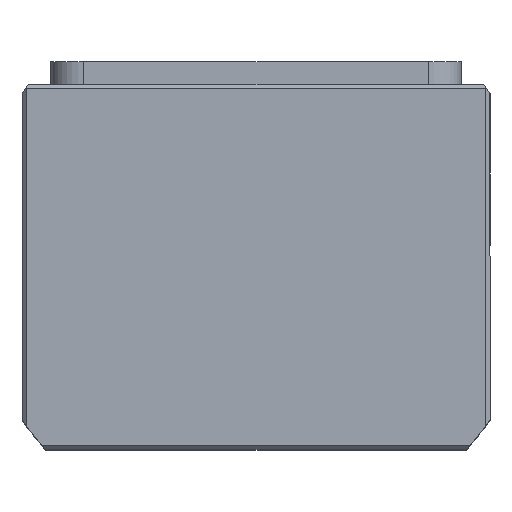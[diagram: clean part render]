
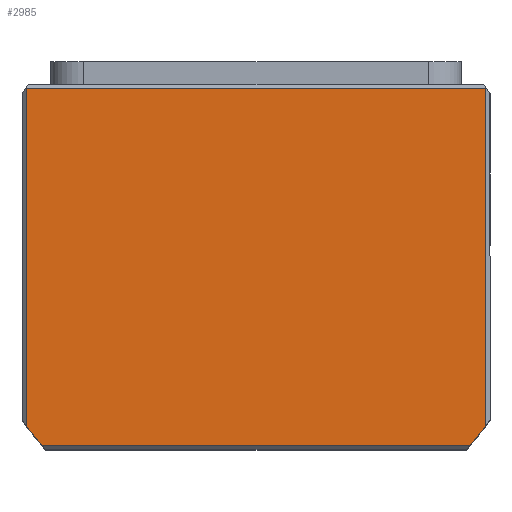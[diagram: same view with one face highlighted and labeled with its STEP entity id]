
A CAD part, top view. The second image highlights one B-rep face of the part: STEP entity #2985.
In plain terms, the highlighted planar face has unit normal (0, 0, 1) as drawn and (0, 0, -1) by its records, which use the part's own axes.
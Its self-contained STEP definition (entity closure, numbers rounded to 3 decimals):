
#58 = LINE ( 'NONE', #1864, #4373 ) ;
#261 = CARTESIAN_POINT ( 'NONE',  ( 0., 43.5, 0. ) ) ;
#510 = ORIENTED_EDGE ( 'NONE', *, *, #1603, .F. ) ;
#852 = VECTOR ( 'NONE', #14835, 1000. ) ;
#1085 = VECTOR ( 'NONE', #7353, 1000. ) ;
#1257 = CARTESIAN_POINT ( 'NONE',  ( 0., 0., 0. ) ) ;
#1436 = AXIS2_PLACEMENT_3D ( 'NONE', #18816, #3173, #18457 ) ;
#1603 = EDGE_CURVE ( 'NONE', #4813, #7507, #4042, .T. ) ;
#1636 = CARTESIAN_POINT ( 'NONE',  ( 56., 0., 0. ) ) ;
#1864 = CARTESIAN_POINT ( 'NONE',  ( -56., 0., 0. ) ) ;
#2241 = FACE_OUTER_BOUND ( 'NONE', #12647, .T. ) ;
#2749 = EDGE_CURVE ( 'NONE', #7252, #18077, #13322, .T. ) ;
#2768 = CARTESIAN_POINT ( 'NONE',  ( -52.098, 43.5, 0. ) ) ;
#2985 = ADVANCED_FACE ( 'NONE', ( #2241 ), #18950, .F. ) ;
#3173 = DIRECTION ( 'NONE',  ( 0., 0., 1. ) ) ;
#3247 = EDGE_CURVE ( 'NONE', #18077, #12210, #17953, .T. ) ;
#4042 = CIRCLE ( 'NONE', #1436, 69.5 ) ;
#4154 = CIRCLE ( 'NONE', #7942, 69.5 ) ;
#4373 = VECTOR ( 'NONE', #13659, 1000. ) ;
#4813 = VERTEX_POINT ( 'NONE', #2768 ) ;
#5241 = ORIENTED_EDGE ( 'NONE', *, *, #2749, .T. ) ;
#5631 = DIRECTION ( 'NONE',  ( 0., 0., 1. ) ) ;
#7026 = AXIS2_PLACEMENT_3D ( 'NONE', #1257, #5631, #16036 ) ;
#7144 = CARTESIAN_POINT ( 'NONE',  ( 0., -2.5, 0. ) ) ;
#7252 = VERTEX_POINT ( 'NONE', #14122 ) ;
#7353 = DIRECTION ( 'NONE',  ( 0., -1., 0. ) ) ;
#7446 = CARTESIAN_POINT ( 'NONE',  ( 0., -43.5, 0. ) ) ;
#7507 = VERTEX_POINT ( 'NONE', #13083 ) ;
#7524 = CARTESIAN_POINT ( 'NONE',  ( 56., -43.5, 0. ) ) ;
#7861 = ORIENTED_EDGE ( 'NONE', *, *, #11682, .T. ) ;
#7942 = AXIS2_PLACEMENT_3D ( 'NONE', #7144, #17503, #8640 ) ;
#8042 = VERTEX_POINT ( 'NONE', #9512 ) ;
#8640 = DIRECTION ( 'NONE',  ( 1., 0., 0. ) ) ;
#9512 = CARTESIAN_POINT ( 'NONE',  ( 52.098, 43.5, 0. ) ) ;
#11682 = EDGE_CURVE ( 'NONE', #4813, #8042, #12566, .T. ) ;
#12107 = VECTOR ( 'NONE', #17935, 1000. ) ;
#12210 = VERTEX_POINT ( 'NONE', #18383 ) ;
#12566 = LINE ( 'NONE', #261, #12107 ) ;
#12647 = EDGE_LOOP ( 'NONE', ( #16189, #5241, #12705, #16678, #510, #7861 ) ) ;
#12705 = ORIENTED_EDGE ( 'NONE', *, *, #3247, .T. ) ;
#13083 = CARTESIAN_POINT ( 'NONE',  ( -56., 38.661, 0. ) ) ;
#13322 = LINE ( 'NONE', #1636, #1085 ) ;
#13659 = DIRECTION ( 'NONE',  ( 0., 1., 0. ) ) ;
#14122 = CARTESIAN_POINT ( 'NONE',  ( 56., 38.661, 0. ) ) ;
#14835 = DIRECTION ( 'NONE',  ( -1., 0., 0. ) ) ;
#15394 = EDGE_CURVE ( 'NONE', #7252, #8042, #4154, .T. ) ;
#16036 = DIRECTION ( 'NONE',  ( 1., 0., 0. ) ) ;
#16167 = EDGE_CURVE ( 'NONE', #12210, #7507, #58, .T. ) ;
#16189 = ORIENTED_EDGE ( 'NONE', *, *, #15394, .F. ) ;
#16678 = ORIENTED_EDGE ( 'NONE', *, *, #16167, .T. ) ;
#17503 = DIRECTION ( 'NONE',  ( 0., 0., 1. ) ) ;
#17935 = DIRECTION ( 'NONE',  ( 1., 0., 0. ) ) ;
#17953 = LINE ( 'NONE', #7446, #852 ) ;
#18077 = VERTEX_POINT ( 'NONE', #7524 ) ;
#18383 = CARTESIAN_POINT ( 'NONE',  ( -56., -43.5, 0. ) ) ;
#18457 = DIRECTION ( 'NONE',  ( 1., 0., 0. ) ) ;
#18816 = CARTESIAN_POINT ( 'NONE',  ( 0., -2.5, 0. ) ) ;
#18950 = PLANE ( 'NONE',  #7026 ) ;
